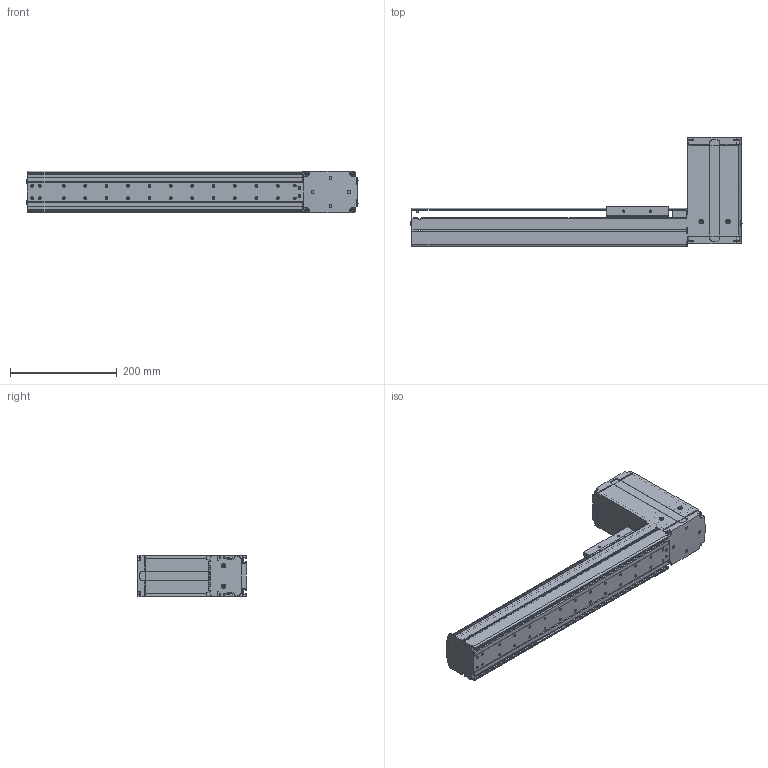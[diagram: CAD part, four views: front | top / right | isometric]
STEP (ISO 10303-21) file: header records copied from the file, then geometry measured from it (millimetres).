
FILE_DESCRIPTION((''),'2;1');
FILE_NAME('BE10_-BT-M_N-30_IGS_PRT','2017-06-18T',(' '),(''),'PRO/ENGINEER BY PARAMETRIC TECHNOLOGY CORPORATION, 2015030','PRO/ENGINEER BY PARAMETRIC TECHNOLOGY CORPORATION, 2015030','');
FILE_SCHEMA(('CONFIG_CONTROL_DESIGN'));
Products named in the file (1): BE10_-BT-M_N-30_IGS_PRT
Bounding box: 620.8 x 204.72 x 78 mm (x, y, z)
Volume: 941097.4 mm3; surface area: 659497.3 mm2
Topology: 3 solids, 116 shells, 1973 faces, 5377 edges, 3521 vertices
Faces by surface type: plane 968, cylinder 834, cone 111, sphere 30, torus 27, bspline 3
Entity records: 63808 total; most frequent: CARTESIAN_POINT 12936, DIRECTION 10777, ORIENTED_EDGE 10254, EDGE_CURVE 5315, AXIS2_PLACEMENT_3D 3814, VERTEX_POINT 3521, VECTOR 3149, LINE 3149
